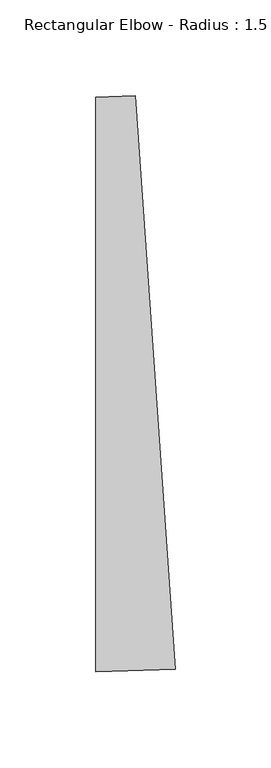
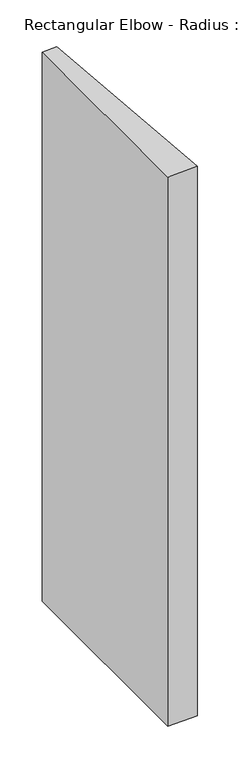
"""IFC4 building model written with IfcOpenShell, lengths in millimetres: duct fitting geometry, Rectangular Elbow - Radius : 1.5 W."""

import ifcopenshell
import ifcopenshell.guid

model = None  # the IFC model being written
_history = None  # IfcOwnerHistory: only IFC2X3 demands one
_inside = {}  # id of a spatial element -> (the spatial element, [elements in it])
_under = {}  # id of a project, library or spatial element -> (it, [spatial elements below it])
_declared = {}  # id of a project -> (the project, [libraries it declares])
_typed = {}  # id of a type object -> (the type object, [elements of that type])
_made_of = {}  # id of a material, layer set ... -> (it, [elements and type objects made of it])


def new_model(schema):
    """Start an empty IFC model of exactly this schema.

    Asked for "IFC4X3", IfcOpenShell would pick the latest addendum, in which some entities
    have other attributes; the version numbers below select the first issue.
    IFC2X3 requires an IfcOwnerHistory on every rooted entity: one is made here for all.
    """
    global model, _history
    if schema == "IFC4X3":
        model = ifcopenshell.file(schema_version=(4, 3, 0, 0))
    else:
        model = ifcopenshell.file(schema=schema)
    _inside.clear()
    _under.clear()
    _declared.clear()
    _typed.clear()
    _made_of.clear()
    _history = None
    if model.schema == "IFC2X3":
        org = make("IfcOrganization", Name="unknown")
        user = make(
            "IfcPersonAndOrganization",
            ThePerson=make("IfcPerson", FamilyName="unknown"),
            TheOrganization=org,
        )
        app = make(
            "IfcApplication",
            ApplicationDeveloper=org,
            Version="unknown",
            ApplicationFullName="unknown",
            ApplicationIdentifier="unknown",
        )
        _history = make(
            "IfcOwnerHistory",
            OwningUser=user,
            OwningApplication=app,
            ChangeAction="ADDED",
            CreationDate=0,
        )
    return model


def make(cls, **values):
    """One entity of the class cls with the attributes given. An attribute that is None is left unset."""
    return model.create_entity(
        cls, **{name: value for name, value in values.items() if value is not None}
    )


def rooted(cls, **values):
    """An entity with a GlobalId (a new one), such as an element, a storey or a relation."""
    return make(cls, GlobalId=ifcopenshell.guid.new(), OwnerHistory=_history, **values)


def si_unit(unit_type, name, prefix=None):
    """IfcSIUnit, for example si_unit("LENGTHUNIT", "METRE", prefix="MILLI")."""
    return make("IfcSIUnit", UnitType=unit_type, Prefix=prefix, Name=name)


def assignment(units):
    """IfcUnitAssignment: the units of a project."""
    return None if units is None else make("IfcUnitAssignment", Units=units)


def point(xyz):
    """IfcCartesianPoint."""
    return None if xyz is None else make("IfcCartesianPoint", Coordinates=xyz)


def direction(xyz):
    """IfcDirection."""
    return None if xyz is None else make("IfcDirection", DirectionRatios=xyz)


def frame(location, z_axis=None, x_axis=None):
    """IfcAxis2Placement3D, a coordinate frame: its origin and axes. An axis left out is left unset."""
    return make(
        "IfcAxis2Placement3D",
        Location=point(location),
        Axis=direction(z_axis),
        RefDirection=direction(x_axis),
    )


def frame_2d(location, x_axis=None):
    """IfcAxis2Placement2D, a coordinate frame in the plane: its origin and x axis."""
    return make(
        "IfcAxis2Placement2D", Location=point(location), RefDirection=direction(x_axis)
    )


def origin():
    """The frame at (0, 0, 0) with its axes left unset."""
    return frame((0.0, 0.0, 0.0))


def place(relative_to, where):
    """IfcLocalPlacement: puts the frame where relative to a parent placement (None: the world)."""
    return make(
        "IfcLocalPlacement", PlacementRelTo=relative_to, RelativePlacement=where
    )


def context(
    kind, dimensions, precision=None, world=None, true_north=None, identifier=None
):
    """IfcGeometricRepresentationContext, for example the 3D "Model" context."""
    return make(
        "IfcGeometricRepresentationContext",
        ContextIdentifier=identifier,
        ContextType=kind,
        CoordinateSpaceDimension=dimensions,
        Precision=precision,
        WorldCoordinateSystem=world,
        TrueNorth=true_north,
    )


def project(units=None, contexts=None):
    """IfcProject with its units and contexts."""
    return rooted(
        "IfcProject",
        Name="project",
        RepresentationContexts=contexts,
        UnitsInContext=assignment(units),
    )


def spatial(cls, under=None, at=None, **own):
    """A site, building, storey or space (cls), placed at a placement, below another one or the project."""
    s = rooted(cls, ObjectPlacement=at, **own)
    if under is not None:
        _under.setdefault(under.id(), (under, []))[1].append(s)
    return s


def polyline(points):
    """IfcPolyline through the points."""
    return make("IfcPolyline", Points=[point(p) for p in points])


def circle_curve(where, radius):
    """IfcCircle in the frame where."""
    return make("IfcCircle", Position=where, Radius=radius)


def trimmed(basis, trim1, trim2, sense, master):
    """IfcTrimmedCurve: the piece of a basis curve between two trims."""
    return make(
        "IfcTrimmedCurve",
        BasisCurve=basis,
        Trim1=trim1,
        Trim2=trim2,
        SenseAgreement=sense,
        MasterRepresentation=master,
    )


def segment(curve, same_sense, transition):
    """IfcCompositeCurveSegment."""
    return make(
        "IfcCompositeCurveSegment",
        Transition=transition,
        SameSense=same_sense,
        ParentCurve=curve,
    )


def composite_curve(segments, self_intersect=None):
    """IfcCompositeCurve: segments joined end to end."""
    return make("IfcCompositeCurve", Segments=segments, SelfIntersect=self_intersect)


def outline(outer, holes=None, kind="AREA"):
    """IfcArbitraryClosedProfileDef: a profile drawn as a closed curve; with holes, ...WithVoids."""
    if holes is None:
        return make("IfcArbitraryClosedProfileDef", ProfileType=kind, OuterCurve=outer)
    return make(
        "IfcArbitraryProfileDefWithVoids",
        ProfileType=kind,
        OuterCurve=outer,
        InnerCurves=holes,
    )


def extrude(swept, where, along, depth):
    """IfcExtrudedAreaSolid: the profile swept, set in the frame where, extruded along a direction by depth."""
    return make(
        "IfcExtrudedAreaSolid",
        SweptArea=swept,
        Position=where,
        ExtrudedDirection=direction(along),
        Depth=depth,
    )


def shape(context_of_items, identifier, shape_type, items):
    """IfcShapeRepresentation: the items that make up one representation, for example the "Body"."""
    return make(
        "IfcShapeRepresentation",
        ContextOfItems=context_of_items,
        RepresentationIdentifier=identifier,
        RepresentationType=shape_type,
        Items=items,
    )


def source(mapping_origin, context_of_items, identifier, shape_type, items):
    """IfcRepresentationMap: a shape defined once, which mapped items show again and again."""
    return make(
        "IfcRepresentationMap",
        MappingOrigin=mapping_origin,
        MappedRepresentation=shape(context_of_items, identifier, shape_type, items),
    )


def transform(
    local_origin,
    x_axis=None,
    y_axis=None,
    z_axis=None,
    scale=None,
    scale2=None,
    scale3=None,
    uniform=True,
):
    """IfcCartesianTransformationOperator3D, or its non-uniform kind. x_axis, y_axis, z_axis: its Axis1, 2, 3."""
    if uniform:
        return make(
            "IfcCartesianTransformationOperator3D",
            Axis1=direction(x_axis),
            Axis2=direction(y_axis),
            LocalOrigin=point(local_origin),
            Scale=scale,
            Axis3=direction(z_axis),
        )
    return make(
        "IfcCartesianTransformationOperator3DnonUniform",
        Axis1=direction(x_axis),
        Axis2=direction(y_axis),
        LocalOrigin=point(local_origin),
        Scale=scale,
        Axis3=direction(z_axis),
        Scale2=scale2,
        Scale3=scale3,
    )


def mapped(mapping_source, mapping_target):
    """IfcMappedItem: shows the shape of a source again, moved by a transform."""
    return make(
        "IfcMappedItem", MappingSource=mapping_source, MappingTarget=mapping_target
    )


def made_of(thing, what):
    """Note that an element or type object is made of a material, layer set ...; save() writes the relation."""
    if what is not None:
        _made_of.setdefault(what.id(), (what, []))[1].append(thing)
    return thing


def element(
    cls,
    number,
    at=None,
    inside=None,
    cuts=None,
    type_object=None,
    material=None,
    context=None,
    identifier="Body",
    shape_type=None,
    held_by="IfcProductDefinitionShape",
    body=None,
    shapes=None,
    **own,
):
    """One element of the class cls, such as IfcWall. Its Tag is "e" and its number.

    at: its placement. inside: the storey or other place that contains it. cuts: it is an
    opening in that element (IfcRelVoidsElement). A single representation is given by context,
    identifier, shape_type and body (its items); several are given by shapes. held_by: the class
    of the entity that holds the representations. save() writes the other relations.
    """
    e = rooted(cls, Tag="e%d" % number, ObjectPlacement=at, **own)
    if body is not None:
        shapes = [shape(context, identifier, shape_type, body)]
    if shapes is not None:
        e.Representation = make(held_by, Representations=shapes)
    if inside is not None:
        _inside.setdefault(inside.id(), (inside, []))[1].append(e)
    if cuts is not None:
        rooted(
            "IfcRelVoidsElement", RelatingBuildingElement=cuts, RelatedOpeningElement=e
        )
    if type_object is not None:
        _typed.setdefault(type_object.id(), (type_object, []))[1].append(e)
    return made_of(e, material)


def aggregate(whole, parts):
    """IfcRelAggregates: a whole, such as a stair, and the parts it consists of."""
    return rooted("IfcRelAggregates", RelatingObject=whole, RelatedObjects=parts)


def save(model, path):
    """Write the relations noted so far, then the file.

    IfcRelAggregates (storeys below a building ...), IfcRelContainedInSpatialStructure (elements
    in a storey), IfcRelDefinesByType, IfcRelAssociatesMaterial and IfcRelDeclares: one each for
    every whole, place, type object, material and project.
    """
    for whole, parts in _under.values():
        aggregate(whole, parts)
    for where, things in _inside.values():
        rooted(
            "IfcRelContainedInSpatialStructure",
            RelatedElements=things,
            RelatingStructure=where,
        )
    for kind, things in _typed.values():
        rooted("IfcRelDefinesByType", RelatedObjects=things, RelatingType=kind)
    for what, things in _made_of.values():
        rooted("IfcRelAssociatesMaterial", RelatedObjects=things, RelatingMaterial=what)
    for by, libraries in _declared.values():
        rooted("IfcRelDeclares", RelatingContext=by, RelatedDefinitions=libraries)
    model.write(path)


def rectangular_elbow_radius_1_5_w_4e0f4f0b(model_context):
    return source(origin(), model_context, "Body", "SweptSolid", [
        extrude(outline(composite_curve([segment(trimmed(circle_curve(frame_2d((-15.5480863, 450.0)), 600.0), [point((25.8640397, -148.5691571))], [point((-15.5480863, -150.0))], False, "CARTESIAN"), True, "CONTINUOUS"), segment(polyline([(-15.5480863, -150.0), (-15.5480863, 150.0)]), True, "CONTINUOUS"), segment(trimmed(circle_curve(frame_2d((-15.5480863, 450.0)), 300.0), [point((-15.5480863, 150.0))], [point((5.1579767, 150.7154215))], True, "CARTESIAN"), True, "CONTINUOUS"), segment(polyline([(5.1579767, 150.7154215), (25.8640397, -148.5691571)]), True, "CONTINUOUS")], self_intersect=False)), frame((0.0, 0.0, -400.0), z_axis=(0.0, 0.0, 1.0), x_axis=(1.0, 0.0, 0.0)), (0.0, 0.0, 1.0), 800.0),
    ])


if __name__ == "__main__":
    model = new_model("IFC4")
    model_context = context("Model", 3, world=origin())
    ifc_project = project(units=[si_unit("LENGTHUNIT", "METRE", prefix="MILLI")], contexts=[model_context])
    site = spatial("IfcSite", under=ifc_project)
    building = spatial("IfcBuilding", under=site)
    placement = place(None, origin())
    rectangular_elbow_radius_1_5_w_shape = rectangular_elbow_radius_1_5_w_4e0f4f0b(model_context)
    element("IfcDuctFitting", 1, ObjectType="Rectangular Elbow - Radius : 1.5 W", at=placement, inside=building, context=model_context, shape_type="MappedRepresentation", body=[
        mapped(rectangular_elbow_radius_1_5_w_shape, transform((0.0, 0.0, 0.0), x_axis=(1.0, 0.0, 0.0), y_axis=(0.0, 1.0, 0.0), z_axis=(0.0, 0.0, 1.0))),
    ])
    save(model, "model.ifc")
